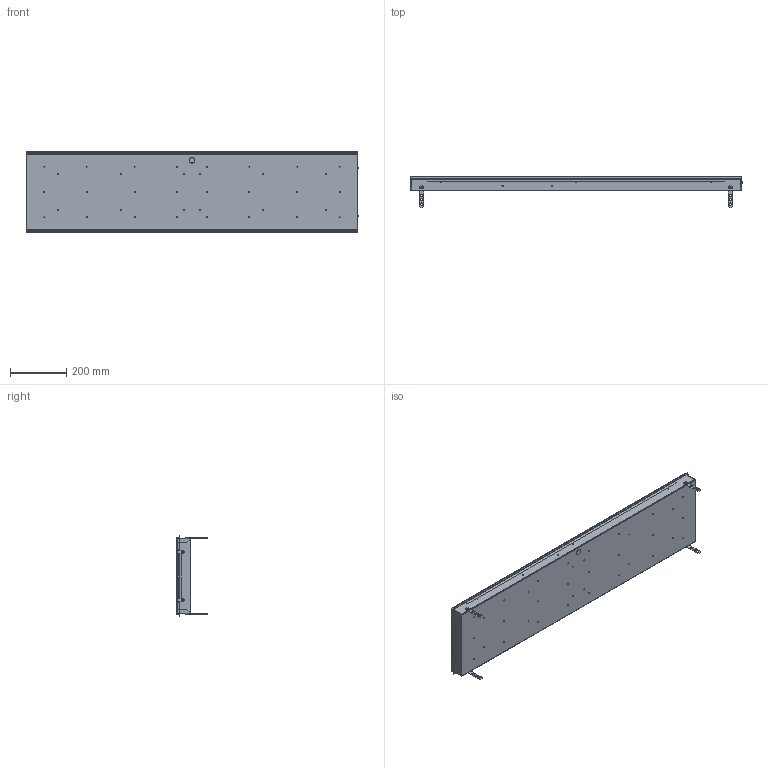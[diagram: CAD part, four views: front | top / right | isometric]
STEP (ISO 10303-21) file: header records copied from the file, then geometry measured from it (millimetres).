
FILE_DESCRIPTION(('STEP AP203'), '1');
FILE_NAME('ÄÊÏ008 03 003.00 ÑÁ - Ñâåòèëüíèê 1200õ300', '', ('UNSPECIFIED'), ('UNSPECIFIED'), 'ASCON STEP Converter 1.6', 'ASCON Math Kernel', '');
FILE_SCHEMA(('CONFIG_CONTROL_DESIGN'));
Length unit declared in the file: millimetre
Products named in the file (11): ДКП008 02 003.00 СБ; ДКП008 03 003.04; ДКП008 03 003.01; ДКП008 01 003.03; ДКП008 03 003.02; ДКП008 02 003.08
Assembly tree (20 placements, depth 3):
  ДКП008 02 003.00 СБ
    ДКП008 03 003.04
    ДКП008 03 003.01
      ДКП008 03 003.01
      ДКП008 01 003.03  x4
      ДКП008 03 003.02  x2
      ДКП008 02 003.08  x2
    (unnamed)  x4
    (unnamed)  x2
    (unnamed)  x2
    (unnamed)
Bounding box: 1175.4 x 110 x 287.8 mm (x, y, z)
Volume: 1309798.4 mm3; surface area: 1897846.7 mm2
Topology: 19 solids, 19 shells, 507 faces, 1215 edges, 768 vertices
Faces by surface type: plane 302, cylinder 141, bspline 40, torus 16, cone 8
Full cylindrical faces by diameter (mm): 1.85 x4, 2.2 x4, 2.5 x10, 3.2 x4, 3.5 x48, 4.4 x4, 4.5 x2, 8 x12, 20 x1
Entity records: 12544 total; most frequent: CARTESIAN_POINT 3398, DIRECTION 1672, ORIENTED_EDGE 1560, EDGE_CURVE 780, AXIS2_PLACEMENT_3D 584, EDGE_LOOP 552, VERTEX_POINT 524, LINE 504
